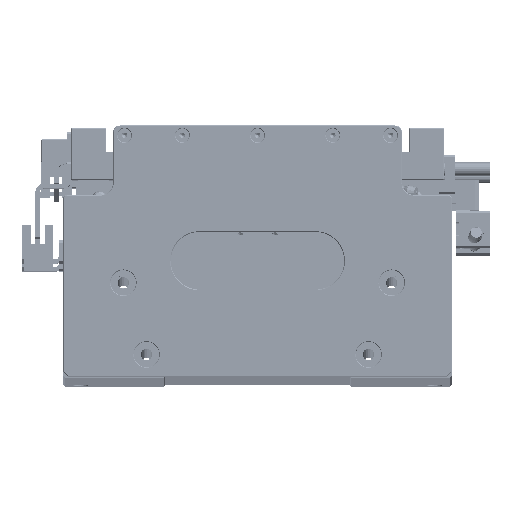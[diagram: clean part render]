
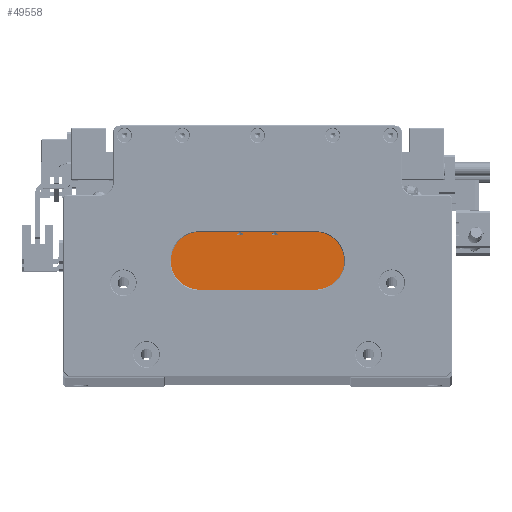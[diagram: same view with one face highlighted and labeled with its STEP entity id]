
A CAD part, top view. The second image highlights one B-rep face of the part: STEP entity #49558.
In plain terms, the highlighted planar face has unit normal (0, 0, 1).
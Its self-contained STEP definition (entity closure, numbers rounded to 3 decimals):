
#524 = VERTEX_POINT ( 'NONE', #91740 ) ;
#1792 = CARTESIAN_POINT ( 'NONE',  ( -45., 29., 90. ) ) ;
#1860 = FACE_BOUND ( 'NONE', #112406, .T. ) ;
#3055 = VECTOR ( 'NONE', #79956, 1000. ) ;
#6224 = VERTEX_POINT ( 'NONE', #34802 ) ;
#6440 = DIRECTION ( 'NONE',  ( -1., 0., 0. ) ) ;
#7652 = DIRECTION ( 'NONE',  ( 1., 0., 0. ) ) ;
#8674 = CARTESIAN_POINT ( 'NONE',  ( -33.5, 69.2, 90. ) ) ;
#9387 = ORIENTED_EDGE ( 'NONE', *, *, #127678, .T. ) ;
#10127 = LINE ( 'NONE', #45846, #3055 ) ;
#12573 = EDGE_CURVE ( 'NONE', #75112, #25232, #73131, .T. ) ;
#13029 = CARTESIAN_POINT ( 'NONE',  ( 6.25, 61.2, 90. ) ) ;
#14494 = EDGE_LOOP ( 'NONE', ( #93850, #92250 ) ) ;
#16897 = VECTOR ( 'NONE', #95037, 1000. ) ;
#17214 = VERTEX_POINT ( 'NONE', #127304 ) ;
#17293 = VECTOR ( 'NONE', #20004, 1000. ) ;
#17805 = CARTESIAN_POINT ( 'NONE',  ( 33.5, 69.2, 90. ) ) ;
#19535 = CARTESIAN_POINT ( 'NONE',  ( 0., 69., 90. ) ) ;
#20004 = DIRECTION ( 'NONE',  ( 0., -1., 0. ) ) ;
#24842 = FACE_OUTER_BOUND ( 'NONE', #39414, .T. ) ;
#25232 = VERTEX_POINT ( 'NONE', #100366 ) ;
#26274 = VECTOR ( 'NONE', #114408, 1000. ) ;
#29171 = DIRECTION ( 'NONE',  ( 0., 1., 0. ) ) ;
#34802 = CARTESIAN_POINT ( 'NONE',  ( 45., 61.2, 90. ) ) ;
#39414 = EDGE_LOOP ( 'NONE', ( #65140, #41932, #118751, #46624, #9387, #69558, #127471, #137914 ) ) ;
#39965 = CARTESIAN_POINT ( 'NONE',  ( -45., 61.2, 90. ) ) ;
#41932 = ORIENTED_EDGE ( 'NONE', *, *, #92497, .T. ) ;
#42941 = CARTESIAN_POINT ( 'NONE',  ( 7.5, 61.2, 90. ) ) ;
#43150 = EDGE_CURVE ( 'NONE', #55049, #75640, #134678, .T. ) ;
#44362 = DIRECTION ( 'NONE',  ( -1., 0., 0. ) ) ;
#45846 = CARTESIAN_POINT ( 'NONE',  ( 45., 61.2, 90. ) ) ;
#46288 = VERTEX_POINT ( 'NONE', #1792 ) ;
#46604 = CARTESIAN_POINT ( 'NONE',  ( -45., 69.2, 90. ) ) ;
#46624 = ORIENTED_EDGE ( 'NONE', *, *, #68210, .T. ) ;
#49095 = AXIS2_PLACEMENT_3D ( 'NONE', #109029, #75288, #7652 ) ;
#49188 = VECTOR ( 'NONE', #136759, 1000. ) ;
#49225 = DIRECTION ( 'NONE',  ( -1., 0., 0. ) ) ;
#49558 = ADVANCED_FACE ( 'NONE', ( #24842, #1860, #115123 ), #143296, .T. ) ;
#50114 = DIRECTION ( 'NONE',  ( 0., 0., -1. ) ) ;
#52868 = EDGE_CURVE ( 'NONE', #17214, #102809, #124099, .T. ) ;
#54301 = DIRECTION ( 'NONE',  ( 1., 0., 0. ) ) ;
#55049 = VERTEX_POINT ( 'NONE', #145541 ) ;
#56513 = EDGE_CURVE ( 'NONE', #25232, #75112, #103543, .T. ) ;
#58054 = LINE ( 'NONE', #19535, #144964 ) ;
#64949 = DIRECTION ( 'NONE',  ( -1., 0., 0. ) ) ;
#65140 = ORIENTED_EDGE ( 'NONE', *, *, #78235, .F. ) ;
#68210 = EDGE_CURVE ( 'NONE', #102809, #524, #58054, .T. ) ;
#69558 = ORIENTED_EDGE ( 'NONE', *, *, #98952, .T. ) ;
#72229 = CARTESIAN_POINT ( 'NONE',  ( -45., 61.2, 90. ) ) ;
#73131 = CIRCLE ( 'NONE', #134646, 1.25 ) ;
#74045 = CARTESIAN_POINT ( 'NONE',  ( 0., 61.2, 90. ) ) ;
#74935 = LINE ( 'NONE', #146401, #101524 ) ;
#75112 = VERTEX_POINT ( 'NONE', #146852 ) ;
#75288 = DIRECTION ( 'NONE',  ( 0., 0., 1. ) ) ;
#75640 = VERTEX_POINT ( 'NONE', #13029 ) ;
#77382 = LINE ( 'NONE', #8674, #17293 ) ;
#77869 = VECTOR ( 'NONE', #49225, 1000. ) ;
#78109 = EDGE_CURVE ( 'NONE', #75640, #55049, #111059, .T. ) ;
#78235 = EDGE_CURVE ( 'NONE', #6224, #123549, #10127, .T. ) ;
#79956 = DIRECTION ( 'NONE',  ( 0., -1., 0. ) ) ;
#82827 = LINE ( 'NONE', #102477, #49188 ) ;
#85938 = CARTESIAN_POINT ( 'NONE',  ( 33.5, 69., 90. ) ) ;
#91740 = CARTESIAN_POINT ( 'NONE',  ( -33.5, 69., 90. ) ) ;
#92250 = ORIENTED_EDGE ( 'NONE', *, *, #43150, .T. ) ;
#92497 = EDGE_CURVE ( 'NONE', #6224, #17214, #82827, .T. ) ;
#93850 = ORIENTED_EDGE ( 'NONE', *, *, #78109, .T. ) ;
#93883 = VECTOR ( 'NONE', #29171, 1000. ) ;
#95037 = DIRECTION ( 'NONE',  ( -1., 0., 0. ) ) ;
#98952 = EDGE_CURVE ( 'NONE', #100585, #120282, #139490, .T. ) ;
#100366 = CARTESIAN_POINT ( 'NONE',  ( -6.25, 61.2, 90. ) ) ;
#100577 = LINE ( 'NONE', #46604, #26274 ) ;
#100585 = VERTEX_POINT ( 'NONE', #118841 ) ;
#101524 = VECTOR ( 'NONE', #44362, 1000. ) ;
#102477 = CARTESIAN_POINT ( 'NONE',  ( 0., 61.2, 90. ) ) ;
#102809 = VERTEX_POINT ( 'NONE', #85938 ) ;
#103543 = LINE ( 'NONE', #72229, #16897 ) ;
#105084 = EDGE_CURVE ( 'NONE', #123549, #46288, #74935, .T. ) ;
#109029 = CARTESIAN_POINT ( 'NONE',  ( 0., 69.2, 90. ) ) ;
#109277 = VECTOR ( 'NONE', #6440, 1000. ) ;
#111059 = CIRCLE ( 'NONE', #120456, 1.25 ) ;
#112406 = EDGE_LOOP ( 'NONE', ( #129558, #121456 ) ) ;
#114408 = DIRECTION ( 'NONE',  ( 0., -1., 0. ) ) ;
#115123 = FACE_BOUND ( 'NONE', #14494, .T. ) ;
#117048 = CARTESIAN_POINT ( 'NONE',  ( -45., 61.2, 90. ) ) ;
#117945 = CARTESIAN_POINT ( 'NONE',  ( -7.5, 61.2, 90. ) ) ;
#118751 = ORIENTED_EDGE ( 'NONE', *, *, #52868, .T. ) ;
#118841 = CARTESIAN_POINT ( 'NONE',  ( -33.5, 61.2, 90. ) ) ;
#119318 = EDGE_CURVE ( 'NONE', #120282, #46288, #100577, .T. ) ;
#120282 = VERTEX_POINT ( 'NONE', #39965 ) ;
#120456 = AXIS2_PLACEMENT_3D ( 'NONE', #42941, #122160, #54301 ) ;
#121456 = ORIENTED_EDGE ( 'NONE', *, *, #56513, .T. ) ;
#122160 = DIRECTION ( 'NONE',  ( 0., 0., -1. ) ) ;
#123549 = VERTEX_POINT ( 'NONE', #145247 ) ;
#124099 = LINE ( 'NONE', #17805, #93883 ) ;
#127304 = CARTESIAN_POINT ( 'NONE',  ( 33.5, 61.2, 90. ) ) ;
#127471 = ORIENTED_EDGE ( 'NONE', *, *, #119318, .T. ) ;
#127678 = EDGE_CURVE ( 'NONE', #524, #100585, #77382, .T. ) ;
#129377 = DIRECTION ( 'NONE',  ( 1., 0., 0. ) ) ;
#129558 = ORIENTED_EDGE ( 'NONE', *, *, #12573, .T. ) ;
#134646 = AXIS2_PLACEMENT_3D ( 'NONE', #117945, #50114, #129377 ) ;
#134678 = LINE ( 'NONE', #117048, #77869 ) ;
#136759 = DIRECTION ( 'NONE',  ( -1., 0., 0. ) ) ;
#137914 = ORIENTED_EDGE ( 'NONE', *, *, #105084, .F. ) ;
#139490 = LINE ( 'NONE', #74045, #109277 ) ;
#143296 = PLANE ( 'NONE',  #49095 ) ;
#144964 = VECTOR ( 'NONE', #64949, 1000. ) ;
#145247 = CARTESIAN_POINT ( 'NONE',  ( 45., 29., 90. ) ) ;
#145541 = CARTESIAN_POINT ( 'NONE',  ( 8.75, 61.2, 90. ) ) ;
#146401 = CARTESIAN_POINT ( 'NONE',  ( -45., 29., 90. ) ) ;
#146852 = CARTESIAN_POINT ( 'NONE',  ( -8.75, 61.2, 90. ) ) ;
